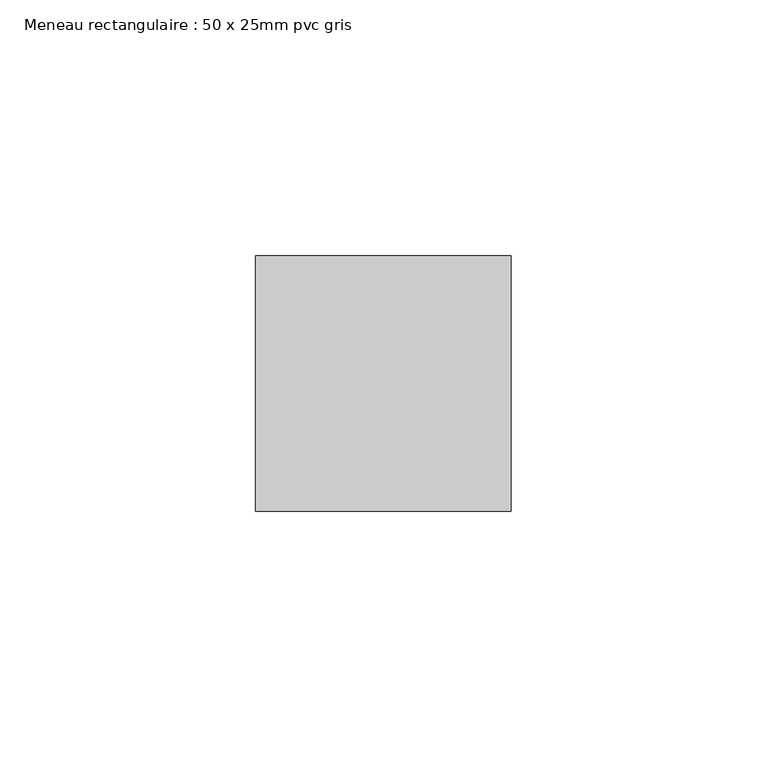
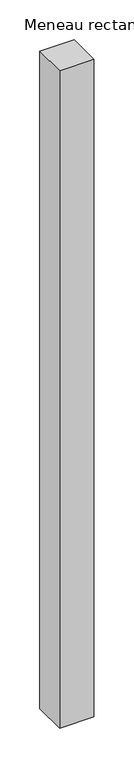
"""IFC4 building model written with IfcOpenShell, lengths in millimetres: member geometry, Meneau rectangulaire : 50 x 25mm pvc gris."""

from ifc_helpers import new_model, si_unit, frame, origin, place, context, project, spatial, polyline, outline, extrude, source, transform, mapped, element, save


def meneau_rectangulaire_50_x_25mm_pvc_gris_dc542e9f(model_context):
    return source(origin(), model_context, "Body", "SweptSolid", [
        extrude(outline(polyline([(0.0, 0.0), (0.0, -50.0), (-50.0, -50.0), (-50.0, 0.0), (0.0, 0.0)])), frame((0.0, 0.0, -1011.3980781), z_axis=(0.0, 0.0, 1.0), x_axis=(1.0, 0.0, 0.0)), (0.0, 0.0, 1.0), 1011.3980781),
    ])


if __name__ == "__main__":
    model = new_model("IFC4")
    model_context = context("Model", 3, world=origin())
    ifc_project = project(units=[si_unit("LENGTHUNIT", "METRE", prefix="MILLI")], contexts=[model_context])
    site = spatial("IfcSite", under=ifc_project)
    building = spatial("IfcBuilding", under=site)
    placement = place(None, origin())
    meneau_rectangulaire_50_x_25mm_pvc_gris_shape = meneau_rectangulaire_50_x_25mm_pvc_gris_dc542e9f(model_context)
    element("IfcMember", 1, ObjectType="Meneau rectangulaire : 50 x 25mm pvc gris", at=placement, inside=building, context=model_context, shape_type="MappedRepresentation", body=[
        mapped(meneau_rectangulaire_50_x_25mm_pvc_gris_shape, transform((0.0, 0.0, 0.0), x_axis=(1.0, 0.0, 0.0), y_axis=(0.0, 1.0, 0.0), z_axis=(0.0, 0.0, 1.0))),
    ])
    save(model, "model.ifc")
